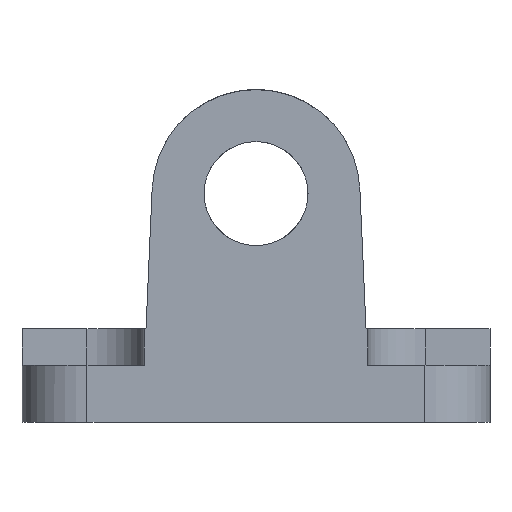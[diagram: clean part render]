
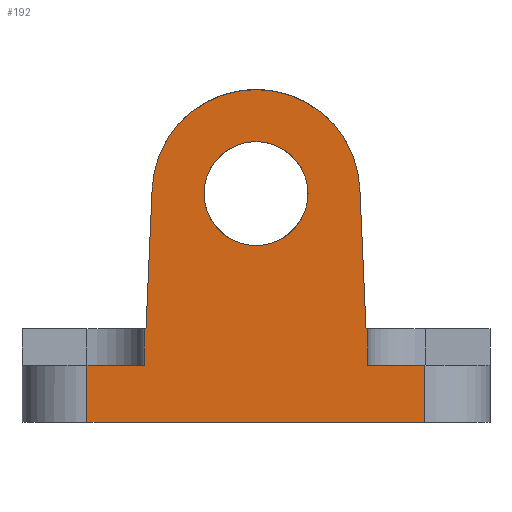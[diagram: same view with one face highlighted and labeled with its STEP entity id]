
A CAD part, front view. The second image highlights one B-rep face of the part: STEP entity #192.
In plain terms, the highlighted planar face has unit normal (0, -1, 0).
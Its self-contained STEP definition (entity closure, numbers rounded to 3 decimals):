
#51=CARTESIAN_POINT('',(16.25,-22.5,5.5));
#52=VERTEX_POINT('',#51);
#60=CARTESIAN_POINT('',(16.25,-22.5,0.0));
#61=VERTEX_POINT('',#60);
#62=CARTESIAN_POINT('',(16.25,-22.5,5.5));
#63=DIRECTION('',(0.0,0.0,-1.0));
#64=VECTOR('',#63,5.5);
#65=LINE('',#62,#64);
#66=EDGE_CURVE('',#52,#61,#65,.T.);
#86=CARTESIAN_POINT('',(22.5,-22.5,0.0));
#87=DIRECTION('',(0.0,-1.0,0.0));
#88=DIRECTION('',(0.0,0.0,-1.0));
#89=AXIS2_PLACEMENT_3D('',#86,#87,#88);
#90=PLANE('',#89);
#91=ORIENTED_EDGE('',*,*,#66,.F.);
#92=CARTESIAN_POINT('',(10.75,-22.5,5.5));
#93=VERTEX_POINT('',#92);
#94=CARTESIAN_POINT('',(16.25,-22.5,5.5));
#95=DIRECTION('',(-1.0,0.0,0.0));
#96=VECTOR('',#95,5.5);
#97=LINE('',#94,#96);
#98=EDGE_CURVE('',#52,#93,#97,.T.);
#99=ORIENTED_EDGE('',*,*,#98,.T.);
#100=CARTESIAN_POINT('',(10.75,-22.5,9.0));
#101=VERTEX_POINT('',#100);
#102=CARTESIAN_POINT('',(10.75,-22.5,5.5));
#103=DIRECTION('',(0.0,0.0,1.0));
#104=VECTOR('',#103,3.5);
#105=LINE('',#102,#104);
#106=EDGE_CURVE('',#93,#101,#105,.T.);
#107=ORIENTED_EDGE('',*,*,#106,.T.);
#108=CARTESIAN_POINT('',(10.577,-22.5,9.0));
#109=VERTEX_POINT('',#108);
#110=CARTESIAN_POINT('',(10.75,-22.5,9.0));
#111=DIRECTION('',(-1.0,0.0,0.0));
#112=VECTOR('',#111,0.173);
#113=LINE('',#110,#112);
#114=EDGE_CURVE('',#101,#109,#113,.T.);
#115=ORIENTED_EDGE('',*,*,#114,.T.);
#116=CARTESIAN_POINT('',(9.99,-22.5,22.436));
#117=VERTEX_POINT('',#116);
#118=CARTESIAN_POINT('',(9.99,-22.5,22.436));
#119=DIRECTION('',(0.044,0.0,-0.999));
#120=VECTOR('',#119,13.449);
#121=LINE('',#118,#120);
#122=EDGE_CURVE('',#117,#109,#121,.T.);
#123=ORIENTED_EDGE('',*,*,#122,.F.);
#124=CARTESIAN_POINT('',(-9.99,-22.5,22.436));
#125=VERTEX_POINT('',#124);
#126=CARTESIAN_POINT('',(0.0,-22.5,22.0));
#127=DIRECTION('',(0.0,1.,0.0));
#128=DIRECTION('',(-0.999,0.0,0.044));
#129=AXIS2_PLACEMENT_3D('',#126,#127,#128);
#130=CIRCLE('',#129,10.0);
#131=EDGE_CURVE('',#125,#117,#130,.T.);
#132=ORIENTED_EDGE('',*,*,#131,.F.);
#133=CARTESIAN_POINT('',(-10.577,-22.5,9.0));
#134=VERTEX_POINT('',#133);
#135=CARTESIAN_POINT('',(-10.577,-22.5,9.0));
#136=DIRECTION('',(0.044,0.0,0.999));
#137=VECTOR('',#136,13.449);
#138=LINE('',#135,#137);
#139=EDGE_CURVE('',#134,#125,#138,.T.);
#140=ORIENTED_EDGE('',*,*,#139,.F.);
#141=CARTESIAN_POINT('',(-10.75,-22.5,9.0));
#142=VERTEX_POINT('',#141);
#143=CARTESIAN_POINT('',(-10.577,-22.5,9.0));
#144=DIRECTION('',(-1.0,0.0,0.0));
#145=VECTOR('',#144,0.173);
#146=LINE('',#143,#145);
#147=EDGE_CURVE('',#134,#142,#146,.T.);
#148=ORIENTED_EDGE('',*,*,#147,.T.);
#149=CARTESIAN_POINT('',(-10.75,-22.5,5.5));
#150=VERTEX_POINT('',#149);
#151=CARTESIAN_POINT('',(-10.75,-22.5,9.0));
#152=DIRECTION('',(0.0,0.0,-1.0));
#153=VECTOR('',#152,3.5);
#154=LINE('',#151,#153);
#155=EDGE_CURVE('',#142,#150,#154,.T.);
#156=ORIENTED_EDGE('',*,*,#155,.T.);
#157=CARTESIAN_POINT('',(-16.25,-22.5,5.5));
#158=VERTEX_POINT('',#157);
#159=CARTESIAN_POINT('',(-10.75,-22.5,5.5));
#160=DIRECTION('',(-1.0,0.0,0.0));
#161=VECTOR('',#160,5.5);
#162=LINE('',#159,#161);
#163=EDGE_CURVE('',#150,#158,#162,.T.);
#164=ORIENTED_EDGE('',*,*,#163,.T.);
#165=CARTESIAN_POINT('',(-16.25,-22.5,0.0));
#166=VERTEX_POINT('',#165);
#167=CARTESIAN_POINT('',(-16.25,-22.5,0.0));
#168=DIRECTION('',(0.0,0.0,1.0));
#169=VECTOR('',#168,5.5);
#170=LINE('',#167,#169);
#171=EDGE_CURVE('',#166,#158,#170,.T.);
#172=ORIENTED_EDGE('',*,*,#171,.F.);
#173=CARTESIAN_POINT('',(16.25,-22.5,0.0));
#174=DIRECTION('',(-1.0,0.0,0.0));
#175=VECTOR('',#174,32.5);
#176=LINE('',#173,#175);
#177=EDGE_CURVE('',#61,#166,#176,.T.);
#178=ORIENTED_EDGE('',*,*,#177,.F.);
#179=EDGE_LOOP('',(#91,#99,#107,#115,#123,#132,#140,#148,#156,#164,#172,#178));
#180=FACE_OUTER_BOUND('',#179,.T.);
#181=CARTESIAN_POINT('',(5.0,-22.5,22.0));
#182=VERTEX_POINT('',#181);
#183=CARTESIAN_POINT('',(0.0,-22.5,22.0));
#184=DIRECTION('',(0.0,1.0,0.0));
#185=DIRECTION('',(1.0,0.0,0.0));
#186=AXIS2_PLACEMENT_3D('',#183,#184,#185);
#187=CIRCLE('',#186,5.0);
#188=EDGE_CURVE('',#182,#182,#187,.T.);
#189=ORIENTED_EDGE('',*,*,#188,.T.);
#190=EDGE_LOOP('',(#189));
#191=FACE_BOUND('',#190,.T.);
#192=ADVANCED_FACE('',(#180,#191),#90,.T.);
